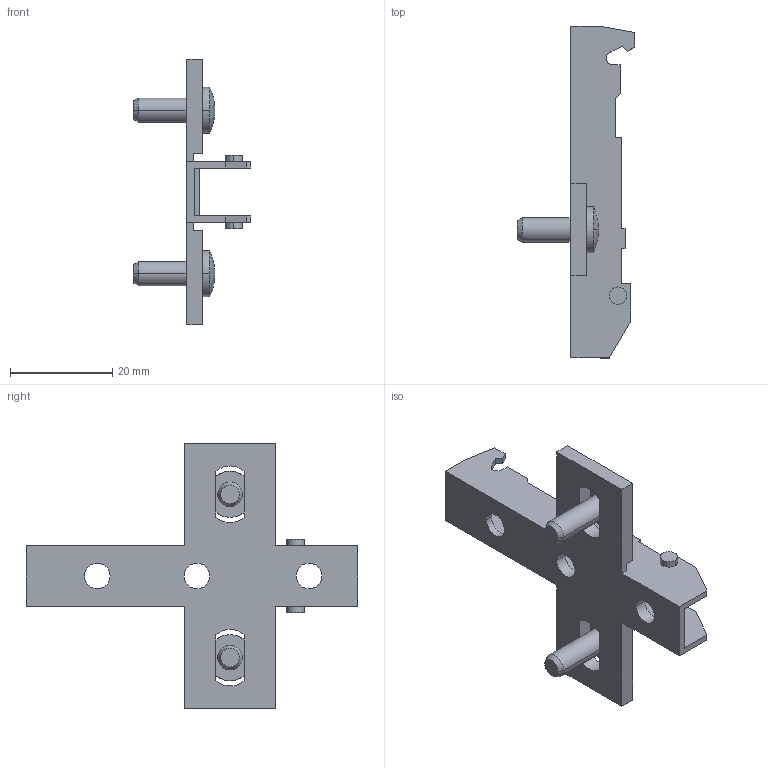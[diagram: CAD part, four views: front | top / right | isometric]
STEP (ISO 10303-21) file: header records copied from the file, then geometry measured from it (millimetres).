
FILE_DESCRIPTION (( 'STEP AP214' ), '1' );
FILE_NAME ('Eco Kreuzmontageplatte LR37_32_Euro_vorm. 13,5mm_H02.step', '2010-11-18T10:06:15', ( 'grass' ), ( '' ), 'SwSTEP 2.0', 'SolidWorks 2010', '' );
FILE_SCHEMA (( 'AUTOMOTIVE_DESIGN' ));
Length unit declared in the file: millimetre
Products named in the file (1): Eco Kreuzmontageplatte LR37_32_Euro_vorm. 13,5mm_H02
Bounding box: 23 x 65 x 52 mm (x, y, z)
Volume: 5058.2 mm3; surface area: 6420.6 mm2
Topology: 1 solids, 1 shells, 104 faces, 296 edges, 194 vertices
Faces by surface type: plane 70, cylinder 26, cone 4, sphere 4
Entity records: 3434 total; most frequent: CARTESIAN_POINT 595, ORIENTED_EDGE 592, DIRECTION 578, EDGE_CURVE 296, VECTOR 224, LINE 224, VERTEX_POINT 194, AXIS2_PLACEMENT_3D 177
